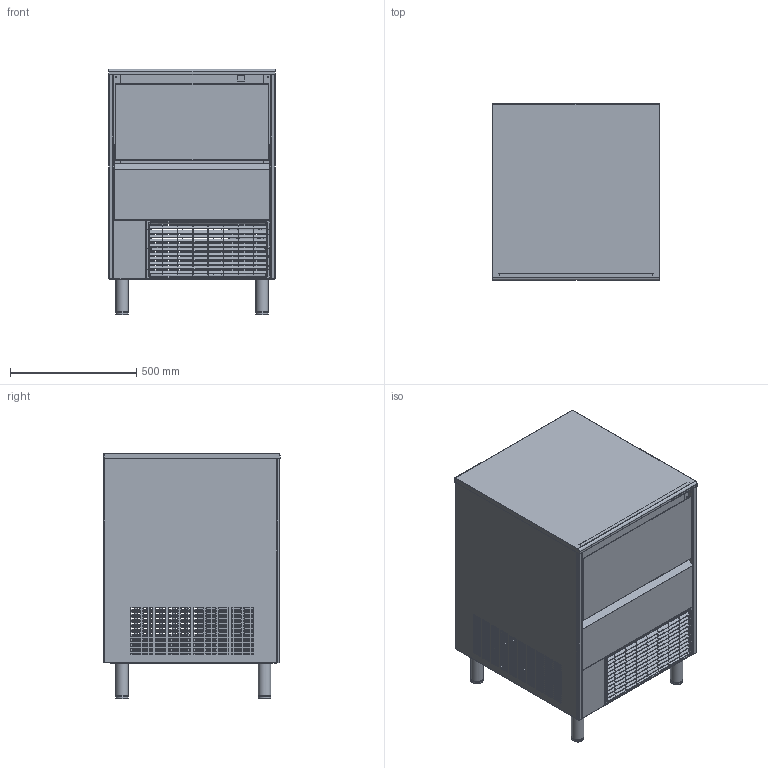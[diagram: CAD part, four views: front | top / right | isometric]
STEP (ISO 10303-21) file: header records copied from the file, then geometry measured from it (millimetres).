
FILE_DESCRIPTION(/* description */ ('Unknown'),/* implementation_level */ '2;1');
FILE_NAME(/* name */ 'SPIKA-NG-90_175-110_215',/* time_stamp */ '2018-04-20T12:40:05+02:00',/* author */ ('Unknown'),/* organization */ ('Unknown'),/* preprocessor_version */ 'ST-DEVELOPER v16.7',/* originating_system */ 'DEX',/* authorisation */ $);
FILE_SCHEMA (('CONFIG_CONTROL_DESIGN'));
Products named in the file (18): SPIKA-80-100; SPIKA-NG-80-100+carroceria_oa_0; 32-1+6256_r01; 32-3+6261_R01; 32-10+SPIKA-80-100_IZQ; 32-3+6260_R01; 32-6+6279; 32-11+6295_oa_1; 32-12+6289; 32-9+6283; 32-10+SPIKA-80-100_DRCH; 32-25+6300; 32-47+6281; 32-5+30253; 32-51+6312; 35-73; 7-128; 7-144
Assembly tree (20 placements, depth 4):
  SPIKA-80-100
    SPIKA-NG-80-100+carroceria_oa_0
      32-1+6256_r01
      32-3+6261_R01
      32-10+SPIKA-80-100_IZQ
      32-3+6260_R01
      32-6+6279
      32-11+6295_oa_1
        32-12+6289
      32-9+6283
      32-10+SPIKA-80-100_DRCH
      32-25+6300
      32-47+6281
      32-5+30253
      32-51+6312
      35-73
      7-128
    7-144  x4
Bounding box: 660 x 700.2 x 973.4 mm (x, y, z)
Volume: 4291919.6 mm3; surface area: 7419616.8 mm2
Topology: 18 solids, 18 shells, 3736 faces, 10939 edges, 7211 vertices
Faces by surface type: plane 1966, cylinder 1393, bspline 342, torus 31, sphere 4
Full cylindrical faces by diameter (mm): 2.4 x21, 2.5 x23, 2.7 x4, 2.75 x5, 2.9 x17, 3.25 x2, 3.5 x20, 4 x6, 4.25 x62, 4.5 x2, 5 x11, 6 x27, 7 x12, 8 x5, 9 x2, 10 x4, 13 x2, 30 x2, 32.8 x4, 39 x4, 40 x4, 43 x4, 50 x8
Entity records: 135520 total; most frequent: CARTESIAN_POINT 36811, ORIENTED_EDGE 21040, DIRECTION 18897, EDGE_CURVE 10520, VERTEX_POINT 7073, LINE 6301, VECTOR 6301, AXIS2_PLACEMENT_3D 6298
